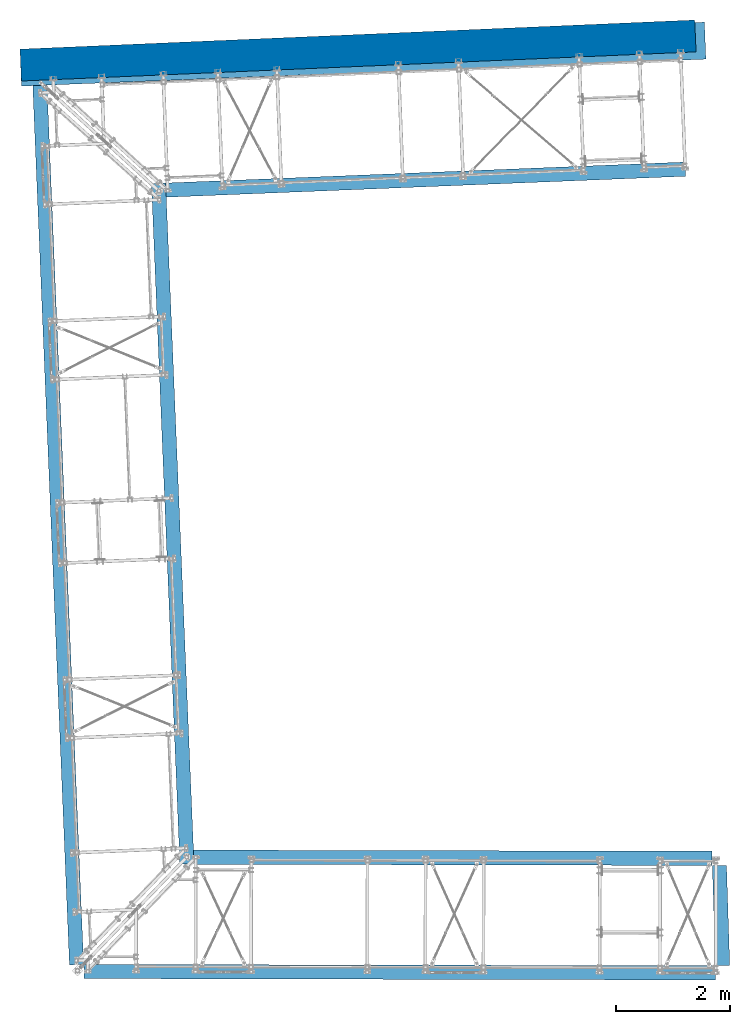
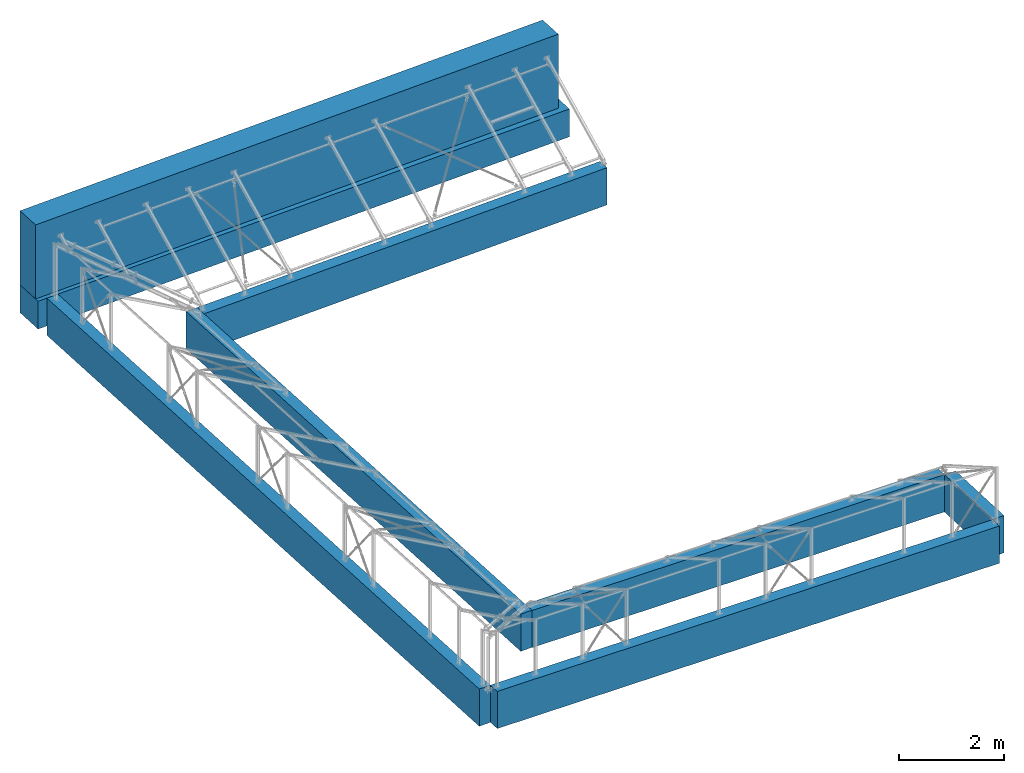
# One storey, part 68 of 288: 8 walls.
"""IFC2X3 building model written with IfcOpenShell, lengths in millimetres."""

from ifc_helpers import new_model, entity, si_unit, converted_unit, frame, origin_with_axes, place, context, project, spatial, polyline, outline, extrude, clip, halfspace, material, layer, layer_set, element, save


model = new_model("IFC2X3")

# Units and contexts
model_context = context("Model", 3, precision=1e-09, world=origin_with_axes())
ifc_project = project(units=[si_unit("LENGTHUNIT", "METRE", prefix="MILLI"), si_unit("AREAUNIT", "SQUARE_METRE"), si_unit("VOLUMEUNIT", "CUBIC_METRE"), converted_unit("PLANEANGLEUNIT", "DEGREE", entity("IfcPlaneAngleMeasure", 0.01745329), si_unit("PLANEANGLEUNIT", "RADIAN"), dimensions=[0, 0, 0, 0, 0, 0, 0])], contexts=[model_context])

# Site, building, storey
site_placement = place(None, origin_with_axes())
site = spatial("IfcSite", under=ifc_project, at=site_placement, Name="Remont ?wietlik?w nad MC w NCPP w Opolu", CompositionType="ELEMENT")
building_placement = place(site_placement, origin_with_axes())
building = spatial("IfcBuilding", under=site, at=building_placement, Name="Konstrukcja 1", CompositionType="ELEMENT")
storey_placement = place(building_placement, origin_with_axes())
storey = spatial("IfcBuildingStorey", under=building, at=storey_placement, Name="Default Storey", CompositionType="ELEMENT", Elevation=0.0)

# Walls
ifc_material = material(Name="C25/30")
ifc_layer_1 = layer(ifc_material, 250.0)
ifc_layer_set_1 = layer_set([ifc_layer_1], Name="C25/30")
wall_1_placement = place(None, frame((1688.776169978, 7740.215892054, -435.000000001), z_axis=(-0.999130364, -0.041695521, 0.0), x_axis=(0.041695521, -0.999130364, 0.0)))
element("IfcWall", 1, at=wall_1_placement, inside=storey, material=ifc_layer_set_1, Name="-", ObjectType="-", context=model_context, shape_type="Clipping", body=[
    clip(clip(extrude(outline(polyline([(-5978.793001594, -435.0), (5978.793001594, -435.0), (5978.793001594, 435.0), (-5978.793001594, 435.0), (-5978.793001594, -435.0)])), origin_with_axes(), (0.0, 0.0, 1.0), 250.0), halfspace(frame((5978.793001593, 435.000000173, 248.353585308), z_axis=(-0.999033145, 0.0, -0.043963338), x_axis=(0.043963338, 0.0, -0.999033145)), True)), halfspace(frame((-5972.492924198, 435.0, -4561.054604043), z_axis=(0.999999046, 0.0, 0.001381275), x_axis=(-0.001381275, 0.0, 0.999999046)), True)),
])
wall_2_placement = place(None, frame((5996.838108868, 13897.690468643, -435.000000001), z_axis=(0.040315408, -0.999187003, 0.0), x_axis=(0.999187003, 0.040315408, 0.0)))
element("IfcWall", 2, at=wall_2_placement, inside=storey, material=ifc_layer_set_1, Name="-", ObjectType="-", context=model_context, shape_type="Clipping", body=[
    clip(extrude(outline(polyline([(-4561.058955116, -435.0), (4561.058955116, -435.0), (4561.058955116, 435.0), (-4561.058955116, 435.0), (-4561.058955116, -435.0)])), origin_with_axes(), (0.0, 0.0, 1.0), 250.0), halfspace(frame((-4561.058955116, 435.0, 0.0), z_axis=(0.999999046, 0.0, -0.001381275), x_axis=(0.001381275, 0.0, 0.999999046)), True)),
])
wall_3_placement = place(None, frame((6361.505876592, 1995.663644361, -434.999999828), z_axis=(-0.002269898, -0.999997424, 0.0), x_axis=(0.999997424, -0.002269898, 0.0)))
element("IfcWall", 3, at=wall_3_placement, inside=storey, material=ifc_layer_set_1, Name="-", ObjectType="-", context=model_context, shape_type="Clipping", body=[
    clip(clip(extrude(outline(polyline([(-4671.022982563, -435.0), (4671.022982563, -435.0), (4671.022982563, 435.0), (-4671.022982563, 435.0), (-4671.022982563, -435.0)])), origin_with_axes(), (0.0, 0.0, 1.0), 250.0), halfspace(frame((-4948.604913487, 434.999999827, -11706.943204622), z_axis=(0.999033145, 0.0, -0.043963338), x_axis=(0.043963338, 0.0, 0.999033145)), True)), halfspace(frame((4952.761599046, 434.999999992, 1121.340940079), z_axis=(-0.999410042, 0.0, 0.034344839), x_axis=(-0.034344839, 0.0, -0.999410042)), True)),
])
wall_4_placement = place(None, frame((5545.040863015, -12.500813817, -435.0), z_axis=(-0.002254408, -0.999997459, 0.0), x_axis=(0.999997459, -0.002254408, 0.0)))
element("IfcWall", 4, at=wall_4_placement, inside=storey, material=ifc_layer_set_1, Name="-", ObjectType="-", context=model_context, shape_type="Clipping", body=[
    clip(clip(extrude(outline(polyline([(-5545.054953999, -435.0), (5545.054953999, -435.0), (5545.054953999, 435.0), (-5545.054953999, 435.0), (-5545.054953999, -435.0)])), origin_with_axes(), (0.0, 0.0, 1.0), 250.0), halfspace(frame((5764.67994599, 435.000000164, -888.582339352), z_axis=(-0.999410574, 0.0, 0.034329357), x_axis=(-0.034329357, 0.0, -0.999410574)), True)), halfspace(frame((-5884.256361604, 435.000000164, -7714.972582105), z_axis=(0.999034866, 0.0, -0.043924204), x_axis=(0.043924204, 0.0, 0.999034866)), True)),
])
wall_5_placement = place(None, frame((11311.709386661, 863.083329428, -434.999999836), z_axis=(-0.999485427, -0.032076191, 0.0), x_axis=(0.032076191, -0.999485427, 0.0)))
element("IfcWall", 5, at=wall_5_placement, inside=storey, material=ifc_layer_set_1, Name="-", ObjectType="-", context=model_context, shape_type="Clipping", body=[
    clip(clip(extrude(outline(polyline([(-880.519000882, -435.0), (880.519000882, -435.0), (880.519000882, 435.0), (-880.519000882, 435.0), (-880.519000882, -435.0)])), origin_with_axes(), (0.0, 0.0, 1.0), 250.0), halfspace(frame((-1201.354215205, 435.000000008, 9588.180888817), z_axis=(0.999410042, 0.0, 0.034344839), x_axis=(-0.034344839, 0.0, 0.999410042)), True)), halfspace(frame((690.160827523, -435.000000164, 5791.786553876), z_axis=(-0.999410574, 0.0, -0.034329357), x_axis=(0.034329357, 0.0, -0.999410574)), True)),
])
wall_6_placement = place(None, frame((-571.590690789, 7705.299709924, -434.999999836), z_axis=(0.999131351, 0.041671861, 0.0), x_axis=(-0.041671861, 0.999131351, 0.0)))
element("IfcWall", 6, at=wall_6_placement, inside=storey, material=ifc_layer_set_1, Name="-", ObjectType="-", context=model_context, shape_type="Clipping", body=[
    clip(clip(extrude(outline(polyline([(-7722.425754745, -435.0), (7722.425754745, -435.0), (7722.425754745, 435.0), (-7722.425754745, 435.0), (-7722.425754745, -435.0)])), origin_with_axes(), (0.0, 0.0, 1.0), 250.0), halfspace(frame((-8215.746598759, -435.000000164, 5778.722183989), z_axis=(0.999034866, 0.0, 0.043924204), x_axis=(-0.043924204, 0.0, 0.999034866)), True)), halfspace(frame((7709.739349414, 434.999999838, 5812.64731858), z_axis=(-0.999997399, 0.0, -0.002280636), x_axis=(0.002280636, 0.0, -0.999997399)), True)),
])
ifc_layer_2 = layer(ifc_material, 650.0)
ifc_layer_set_2 = layer_set([ifc_layer_2], Name="C25/30")
wall_7_placement = place(None, frame((4889.122775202, 16300.061295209, -324.999999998), z_axis=(0.039393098, -0.999223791, 0.0), x_axis=(0.999223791, 0.039393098, 0.0)))
element("IfcWall", 7, at=wall_7_placement, inside=storey, material=ifc_layer_set_2, Name="-", ObjectType="-", context=model_context, shape_type="SweptSolid", body=[
    extrude(outline(polyline([(-6011.22847166, -325.0), (6011.22847166, -325.0), (6011.22847166, 325.0), (-6011.22847166, 325.0), (-6011.22847166, -325.0)])), origin_with_axes(), (0.0, 0.0, 1.0), 650.0),
])
ifc_layer_3 = layer(ifc_material, 560.0)
ifc_layer_set_3 = layer_set([ifc_layer_3], Name="C25/30")
wall_8_placement = place(None, frame((4803.562764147, 16318.982460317, 865.000000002), z_axis=(0.04314876, -0.999068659, 0.0), x_axis=(0.999068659, 0.04314876, 0.0)))
element("IfcWall", 8, at=wall_8_placement, inside=storey, material=ifc_layer_set_3, Name="-", ObjectType="-", context=model_context, shape_type="SweptSolid", body=[
    extrude(outline(polyline([(-5926.522104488, -865.0), (5926.522104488, -865.0), (5926.522104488, 865.0), (-5926.522104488, 865.0), (-5926.522104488, -865.0)])), origin_with_axes(), (0.0, 0.0, 1.0), 560.0),
])

save(model, "model.ifc")
